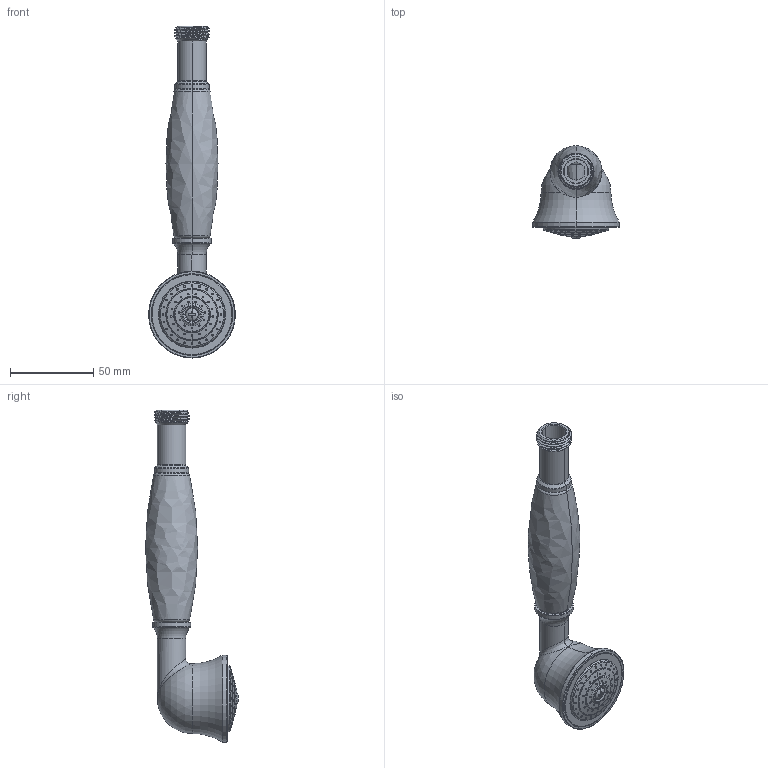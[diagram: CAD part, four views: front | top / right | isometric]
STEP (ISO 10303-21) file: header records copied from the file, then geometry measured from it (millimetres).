
FILE_DESCRIPTION((''),'2;1');
FILE_NAME('37206--00_ASM','2022-10-11T16:49:57',('sosm1'),(''),'CREO PARAMETRIC BY PTC INC, 2018190','CREO PARAMETRIC BY PTC INC, 2018190','');
FILE_SCHEMA(('CONFIG_CONTROL_DESIGN','SHAPE_APPEARANCE_LAYERS_GROUPS'));
Length unit declared in the file: millimetre
Products named in the file (11): 19291--_POS1; 19291--_POS2; 19291--_POS3; 19291--_POS4; 19291--_POS5; 19291--_POS6; 19291--_POS7; 19291--_POS8; 19291--_SUB02_ASM; 46058--_ASM; 37206--00_ASM
Assembly tree (10 placements, depth 4):
  37206--00_ASM
    46058--_ASM
      19291--_POS1
      19291--_POS2
      19291--_POS3
      19291--_POS4
      19291--_POS5
      19291--_POS6
      19291--_SUB02_ASM
        19291--_POS7
        19291--_POS8
Bounding box: 52.2 x 55.84 x 199.65 mm (x, y, z)
Volume: 65462.9 mm3; surface area: 48228 mm2
Topology: 8 solids, 8 shells, 608 faces, 1552 edges, 955 vertices
Faces by surface type: cylinder 312, bspline 88, cone 79, torus 70, plane 53, sphere 6
Entity records: 45059 total; most frequent: CARTESIAN_POINT 31237, ORIENTED_EDGE 3096, DIRECTION 2295, EDGE_CURVE 1548, VERTEX_POINT 955, AXIS2_PLACEMENT_3D 889, EDGE_LOOP 725, B_SPLINE_CURVE_WITH_KNOTS 692
